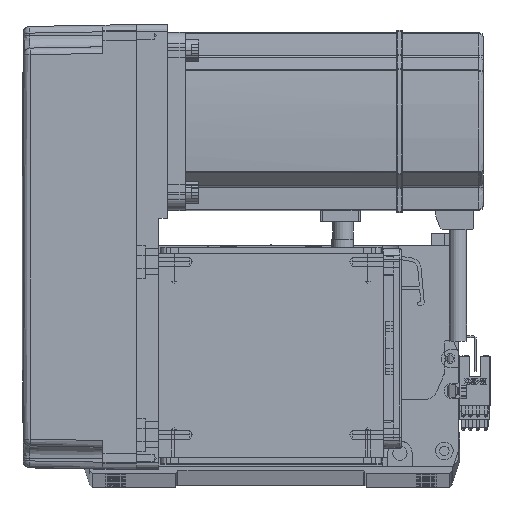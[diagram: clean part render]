
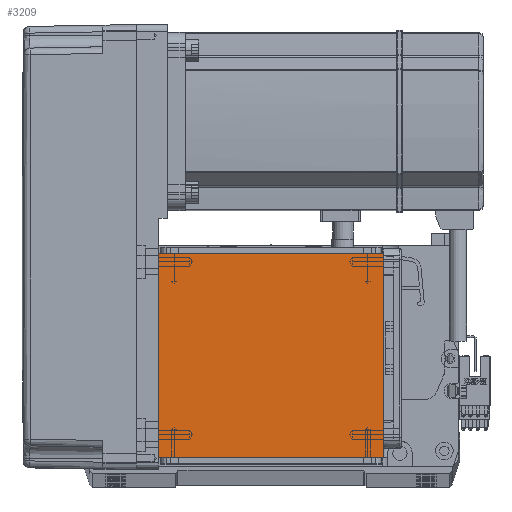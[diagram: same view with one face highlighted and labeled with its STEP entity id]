
A CAD part, top view. The second image highlights one B-rep face of the part: STEP entity #3209.
In plain terms, the highlighted planar face has unit normal (0, 0, 1).
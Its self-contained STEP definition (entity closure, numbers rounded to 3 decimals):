
#236 = CARTESIAN_POINT ( 'NONE',  ( -70.004, 20., 115. ) ) ;
#1714 = FACE_OUTER_BOUND ( 'NONE', #22787, .T. ) ;
#3209 = ADVANCED_FACE ( 'NONE', ( #1714 ), #52375, .T. ) ;
#5937 = VERTEX_POINT ( 'NONE', #26749 ) ;
#11610 = ORIENTED_EDGE ( 'NONE', *, *, #43575, .T. ) ;
#13540 = DIRECTION ( 'NONE',  ( 0., -1., 0. ) ) ;
#13576 = CARTESIAN_POINT ( 'NONE',  ( 50.5, 122., 115. ) ) ;
#15435 = CARTESIAN_POINT ( 'NONE',  ( -50.5, 20., 115. ) ) ;
#16313 = LINE ( 'NONE', #13576, #25342 ) ;
#17244 = ORIENTED_EDGE ( 'NONE', *, *, #24632, .F. ) ;
#17744 = LINE ( 'NONE', #236, #34144 ) ;
#18865 = DIRECTION ( 'NONE',  ( 0., 1., 0. ) ) ;
#19505 = VECTOR ( 'NONE', #24145, 1000. ) ;
#22787 = EDGE_LOOP ( 'NONE', ( #17244, #58438, #58086, #11610 ) ) ;
#23434 = AXIS2_PLACEMENT_3D ( 'NONE', #26270, #26486, #63172 ) ;
#24145 = DIRECTION ( 'NONE',  ( 1., 0., 0. ) ) ;
#24632 = EDGE_CURVE ( 'NONE', #5937, #40243, #52544, .T. ) ;
#25342 = VECTOR ( 'NONE', #18865, 1000. ) ;
#25908 = EDGE_CURVE ( 'NONE', #56420, #41606, #17744, .T. ) ;
#26270 = CARTESIAN_POINT ( 'NONE',  ( 0., 0., 115. ) ) ;
#26486 = DIRECTION ( 'NONE',  ( 0., 0., 1. ) ) ;
#26749 = CARTESIAN_POINT ( 'NONE',  ( -50.5, 111.5, 115. ) ) ;
#27095 = DIRECTION ( 'NONE',  ( -1., 0., 0. ) ) ;
#27232 = CARTESIAN_POINT ( 'NONE',  ( 50.5, 111.5, 115. ) ) ;
#27300 = LINE ( 'NONE', #65394, #38855 ) ;
#29205 = CARTESIAN_POINT ( 'NONE',  ( -70.004, 111.5, 115. ) ) ;
#34144 = VECTOR ( 'NONE', #27095, 1000. ) ;
#38855 = VECTOR ( 'NONE', #13540, 1000. ) ;
#40243 = VERTEX_POINT ( 'NONE', #27232 ) ;
#41606 = VERTEX_POINT ( 'NONE', #15435 ) ;
#43575 = EDGE_CURVE ( 'NONE', #56420, #40243, #16313, .T. ) ;
#52375 = PLANE ( 'NONE',  #23434 ) ;
#52544 = LINE ( 'NONE', #29205, #19505 ) ;
#56206 = EDGE_CURVE ( 'NONE', #5937, #41606, #27300, .T. ) ;
#56420 = VERTEX_POINT ( 'NONE', #58124 ) ;
#58086 = ORIENTED_EDGE ( 'NONE', *, *, #25908, .F. ) ;
#58124 = CARTESIAN_POINT ( 'NONE',  ( 50.5, 20., 115. ) ) ;
#58438 = ORIENTED_EDGE ( 'NONE', *, *, #56206, .T. ) ;
#63172 = DIRECTION ( 'NONE',  ( 1., 0., 0. ) ) ;
#65394 = CARTESIAN_POINT ( 'NONE',  ( -50.5, 122., 115. ) ) ;
